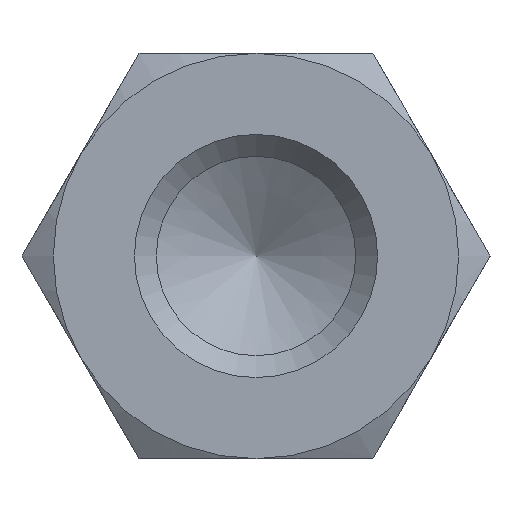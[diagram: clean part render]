
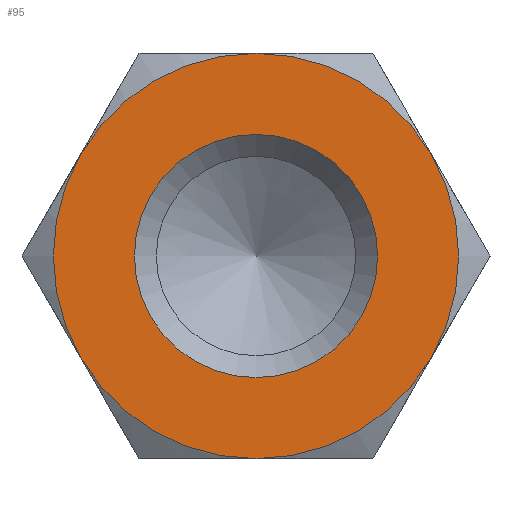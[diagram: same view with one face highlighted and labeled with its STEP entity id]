
A CAD part, left-side view. The second image highlights one B-rep face of the part: STEP entity #95.
In plain terms, the highlighted planar face has unit normal (-1, 0, 0).
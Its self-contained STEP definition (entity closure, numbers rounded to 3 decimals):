
#95 = ADVANCED_FACE( '', ( #147, #148 ), #149, .F. );
#147 = FACE_OUTER_BOUND( '', #206, .T. );
#148 = FACE_BOUND( '', #207, .T. );
#149 = PLANE( '', #208 );
#206 = EDGE_LOOP( '', ( #356, #357, #358, #359, #360, #361 ) );
#207 = EDGE_LOOP( '', ( #362 ) );
#208 = AXIS2_PLACEMENT_3D( '', #363, #364, #365 );
#356 = ORIENTED_EDGE( '', *, *, #440, .F. );
#357 = ORIENTED_EDGE( '', *, *, #425, .F. );
#358 = ORIENTED_EDGE( '', *, *, #441, .F. );
#359 = ORIENTED_EDGE( '', *, *, #437, .F. );
#360 = ORIENTED_EDGE( '', *, *, #442, .F. );
#361 = ORIENTED_EDGE( '', *, *, #443, .F. );
#362 = ORIENTED_EDGE( '', *, *, #439, .T. );
#363 = CARTESIAN_POINT( '', ( -45., 0., 0. ) );
#364 = DIRECTION( '', ( 1., 0., 0. ) );
#365 = DIRECTION( '', ( 0., 0., -1. ) );
#425 = EDGE_CURVE( '', #495, #493, #497, .T. );
#437 = EDGE_CURVE( '', #447, #506, #513, .T. );
#439 = EDGE_CURVE( '', #516, #516, #517, .T. );
#440 = EDGE_CURVE( '', #493, #486, #518, .T. );
#441 = EDGE_CURVE( '', #506, #495, #519, .T. );
#442 = EDGE_CURVE( '', #481, #447, #520, .T. );
#443 = EDGE_CURVE( '', #486, #481, #521, .T. );
#447 = VERTEX_POINT( '', #525 );
#481 = VERTEX_POINT( '', #601 );
#486 = VERTEX_POINT( '', #617 );
#493 = VERTEX_POINT( '', #642 );
#495 = VERTEX_POINT( '', #647 );
#497 = CIRCLE( '', #654, 5. );
#506 = VERTEX_POINT( '', #680 );
#513 = CIRCLE( '', #717, 5. );
#516 = VERTEX_POINT( '', #720 );
#517 = CIRCLE( '', #721, 3. );
#518 = CIRCLE( '', #722, 5. );
#519 = CIRCLE( '', #723, 5. );
#520 = CIRCLE( '', #724, 5. );
#521 = CIRCLE( '', #725, 5. );
#525 = CARTESIAN_POINT( '', ( -45., -4.33, 2.5 ) );
#601 = CARTESIAN_POINT( '', ( -45., 0., 5. ) );
#617 = CARTESIAN_POINT( '', ( -45., 4.33, 2.5 ) );
#642 = CARTESIAN_POINT( '', ( -45., 4.33, -2.5 ) );
#647 = CARTESIAN_POINT( '', ( -45., 0., -5. ) );
#654 = AXIS2_PLACEMENT_3D( '', #760, #761, #762 );
#680 = CARTESIAN_POINT( '', ( -45., -4.33, -2.5 ) );
#717 = AXIS2_PLACEMENT_3D( '', #765, #766, #767 );
#720 = CARTESIAN_POINT( '', ( -45., 3., 0. ) );
#721 = AXIS2_PLACEMENT_3D( '', #771, #772, #773 );
#722 = AXIS2_PLACEMENT_3D( '', #774, #775, #776 );
#723 = AXIS2_PLACEMENT_3D( '', #777, #778, #779 );
#724 = AXIS2_PLACEMENT_3D( '', #780, #781, #782 );
#725 = AXIS2_PLACEMENT_3D( '', #783, #784, #785 );
#760 = CARTESIAN_POINT( '', ( -45., 0., 0. ) );
#761 = DIRECTION( '', ( 1., 0., 0. ) );
#762 = DIRECTION( '', ( 0., 0., -1. ) );
#765 = CARTESIAN_POINT( '', ( -45., 0., 0. ) );
#766 = DIRECTION( '', ( 1., 0., 0. ) );
#767 = DIRECTION( '', ( 0., 0., -1. ) );
#771 = CARTESIAN_POINT( '', ( -45., 0., 0. ) );
#772 = DIRECTION( '', ( 1., 0., 0. ) );
#773 = DIRECTION( '', ( 0., 1., 0. ) );
#774 = CARTESIAN_POINT( '', ( -45., 0., 0. ) );
#775 = DIRECTION( '', ( 1., 0., 0. ) );
#776 = DIRECTION( '', ( 0., 0., -1. ) );
#777 = CARTESIAN_POINT( '', ( -45., 0., 0. ) );
#778 = DIRECTION( '', ( 1., 0., 0. ) );
#779 = DIRECTION( '', ( 0., 0., -1. ) );
#780 = CARTESIAN_POINT( '', ( -45., 0., 0. ) );
#781 = DIRECTION( '', ( 1., 0., 0. ) );
#782 = DIRECTION( '', ( 0., 0., -1. ) );
#783 = CARTESIAN_POINT( '', ( -45., 0., 0. ) );
#784 = DIRECTION( '', ( 1., 0., 0. ) );
#785 = DIRECTION( '', ( 0., 0., -1. ) );
